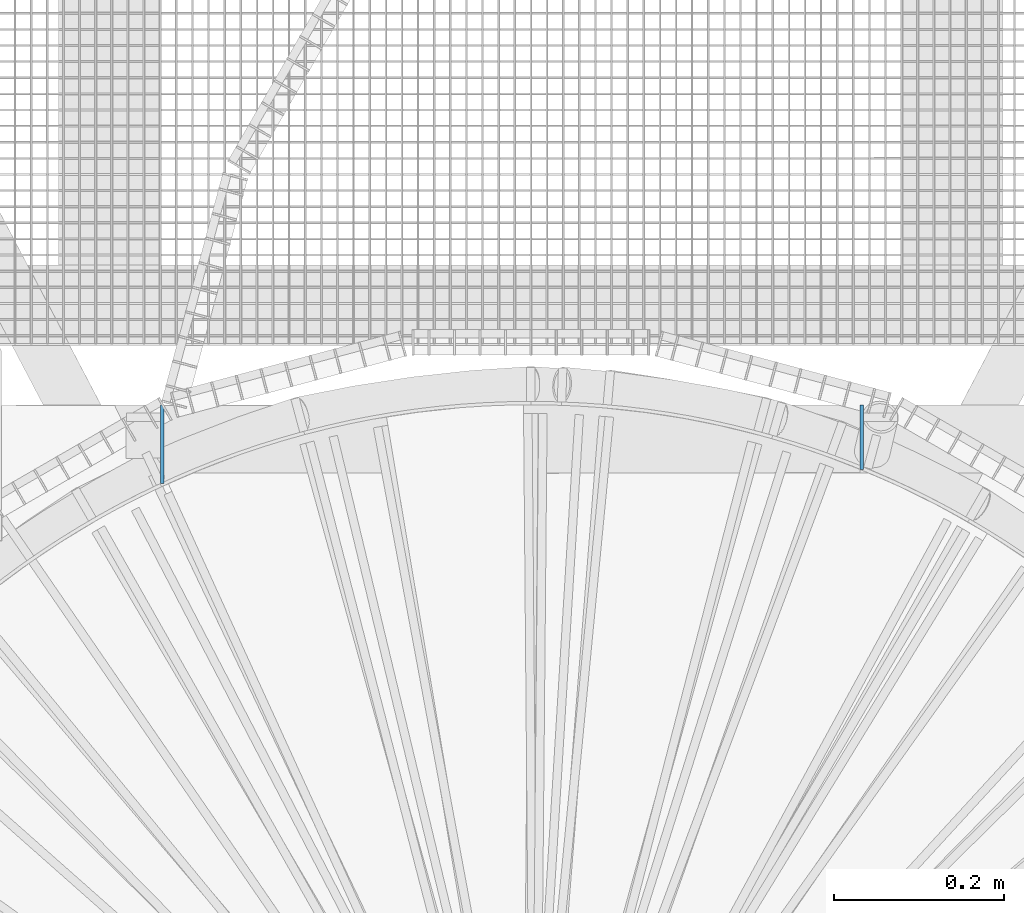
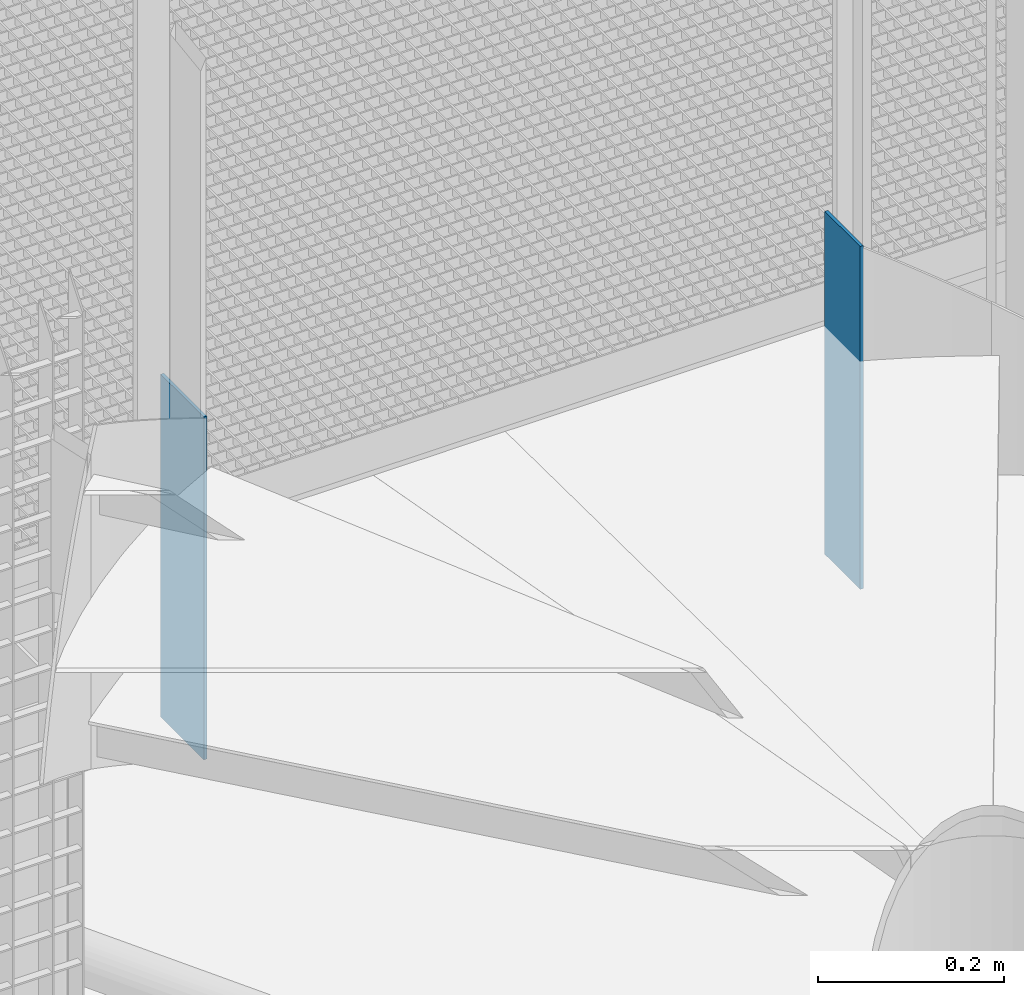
# One storey, part 330 of 1183: 2 beams, 2 elements without a shape of their own.
"""IFC2X3 building model written with IfcOpenShell, lengths in millimetres."""

from ifc_helpers import new_model, si_unit, frame, origin_with_axes, origin_2d_with_axis, place, context, subcontext, project, spatial, rectangle, extrude, material, type_object, element, aggregate, save


model = new_model("IFC2X3")

# Units and contexts
model_context = context("Model", 3, precision=1e-05, world=origin_with_axes())
body_context = subcontext(model_context, "Body", "Model", "MODEL_VIEW")
ifc_project = project(units=[si_unit("LENGTHUNIT", "METRE", prefix="MILLI"), si_unit("AREAUNIT", "SQUARE_METRE"), si_unit("VOLUMEUNIT", "CUBIC_METRE"), si_unit("MASSUNIT", "GRAM", prefix="KILO"), si_unit("TIMEUNIT", "SECOND"), si_unit("PLANEANGLEUNIT", "RADIAN"), si_unit("SOLIDANGLEUNIT", "STERADIAN"), si_unit("THERMODYNAMICTEMPERATUREUNIT", "DEGREE_CELSIUS"), si_unit("LUMINOUSINTENSITYUNIT", "LUMEN")], contexts=[model_context])

# Site, building, storey
site_placement = place(None, origin_with_axes())
site = spatial("IfcSite", under=ifc_project, at=site_placement, Name="Undefined", CompositionType="ELEMENT")
building_placement = place(site_placement, origin_with_axes())
building = spatial("IfcBuilding", under=site, at=building_placement, Name="Undefined", CompositionType="ELEMENT")
storey_placement = place(building_placement, origin_with_axes())
storey = spatial("IfcBuildingStorey", under=building, at=storey_placement, Name="Undefined", CompositionType="ELEMENT", Elevation=0.0)

# Assembly, beam
assembly_1_placement = place(storey_placement, origin_with_axes())
assembly_1 = element("IfcElementAssembly", 1, at=assembly_1_placement, inside=storey, AssemblyPlace="NOTDEFINED", PredefinedType="NOTDEFINED")
ifc_material = material(Name="STEEL/S235JR")
beam_type = type_object("IfcBeamType", Name="PLT4*450", PredefinedType="NOTDEFINED")
beam_1_placement = place(assembly_1_placement, frame((389.960860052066, 953.796451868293, 10014.84), z_axis=(0.0, 0.0, 1.0), x_axis=(-0.000142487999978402, 0.999999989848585, 0.0)))
beam_1 = element("IfcBeam", 2, at=beam_1_placement, type_object=beam_type, material=ifc_material, Name="GARDE_PIED", context=body_context, shape_type="SweptSolid", body=[
    extrude(rectangle(XDim=4.0, YDim=450.0, at=origin_2d_with_axis()), frame((76.2199999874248, 3.63797880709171e-12, 0.0), z_axis=(-1.0, 0.0, 0.0), x_axis=(0.0, -1.0, 0.0)), (0.0, 0.0, 1.0), 76.22),
])
aggregate(assembly_1, [beam_1])

assembly_2_placement = place(storey_placement, origin_with_axes())
assembly_2 = element("IfcElementAssembly", 3, at=assembly_2_placement, inside=storey, AssemblyPlace="NOTDEFINED", PredefinedType="NOTDEFINED")
beam_2_placement = place(assembly_2_placement, frame((-434.473451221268, 937.122320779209, 10089.84), z_axis=(0.0, 0.0, 1.0), x_axis=(0.000144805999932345, 0.999999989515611, 0.0)))
beam_2 = element("IfcBeam", 4, at=beam_2_placement, type_object=beam_type, material=ifc_material, Name="GARDE_PIED", context=body_context, shape_type="SweptSolid", body=[
    extrude(rectangle(XDim=4.0, YDim=450.0, at=origin_2d_with_axis()), frame((92.8941359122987, -2.51790059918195e-18, 1.81898940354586e-12), z_axis=(-1.0, 0.0, 0.0), x_axis=(0.0, -1.0, 0.0)), (0.0, 0.0, 1.0), 92.89),
])
aggregate(assembly_2, [beam_2])

save(model, "model.ifc")
